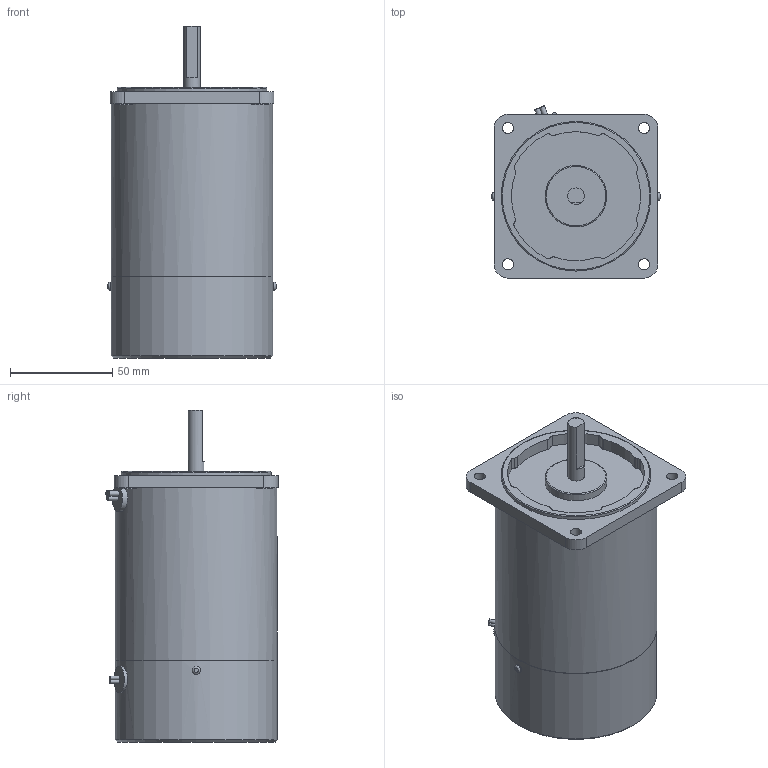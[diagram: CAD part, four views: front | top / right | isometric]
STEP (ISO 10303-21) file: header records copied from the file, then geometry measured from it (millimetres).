
FILE_DESCRIPTION((''),'2;1');
FILE_NAME('E:\2공장-도면\3D\표준형 3D(민규)\step file\B\K8RS25Nㅁ-B.stp','2014-11-13T17:55:50',('AHN'),(''),'Autodesk Inventor 2012','Autodesk Inventor 2012','');
FILE_SCHEMA(('CONFIG_CONTROL_DESIGN'));
Length unit declared in the file: millimetre
Products named in the file (1): K8ㅁS25Nㅁ-B
Bounding box: 82 x 84.13 x 162 mm (x, y, z)
Volume: 638724 mm3; surface area: 48691.9 mm2
Topology: 1 solids, 1 shells, 89 faces, 204 edges, 128 vertices
Faces by surface type: cylinder 54, plane 30, bspline 2, torus 2, cone 1
Full cylindrical faces by diameter (mm): 1.8 x2, 4 x2, 5.5 x4, 8 x5, 13 x1, 30 x1, 73 x1, 78.8 x1, 79 x2
Entity records: 2668 total; most frequent: CARTESIAN_POINT 671, DIRECTION 455, ORIENTED_EDGE 346, AXIS2_PLACEMENT_3D 198, EDGE_CURVE 173, EDGE_LOOP 134, VERTEX_POINT 119, CIRCLE 110
